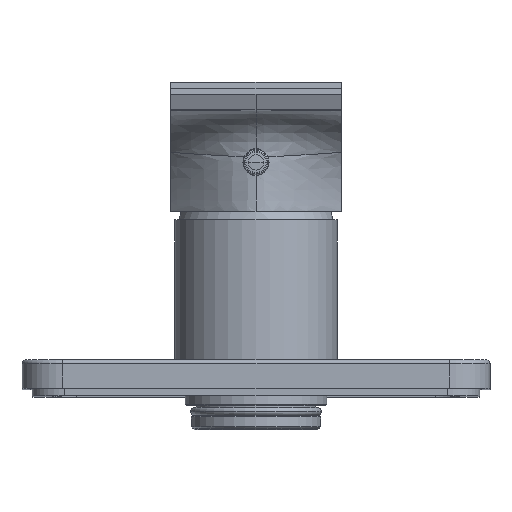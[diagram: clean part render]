
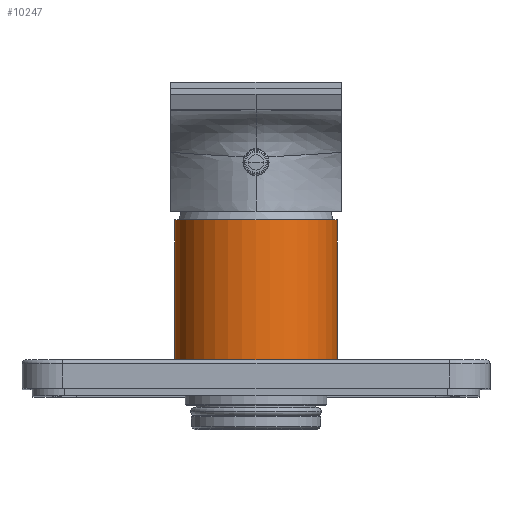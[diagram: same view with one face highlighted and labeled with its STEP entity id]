
A CAD part, top view. The second image highlights one B-rep face of the part: STEP entity #10247.
In plain terms, the highlighted cylindrical face has radius 20 mm (diameter 40 mm), a partial arc.
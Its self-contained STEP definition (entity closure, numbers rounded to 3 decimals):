
#7302=DIRECTION('',(0.,1.,0.));
#7303=VECTOR('',#7302,41.5);
#7304=CARTESIAN_POINT('',(20.,0.,0.));
#7305=LINE('',#7304,#7303);
#7306=CARTESIAN_POINT('',(0.,0.,0.));
#7307=DIRECTION('',(0.,-1.,0.));
#7308=DIRECTION('',(1.,0.,0.));
#7309=AXIS2_PLACEMENT_3D('',#7306,#7307,#7308);
#7311=DIRECTION('',(0.,1.,0.));
#7312=VECTOR('',#7311,41.5);
#7313=CARTESIAN_POINT('',(-20.,0.,0.));
#7314=LINE('',#7313,#7312);
#7320=CARTESIAN_POINT('',(0.,41.5,0.));
#7321=DIRECTION('',(0.,-1.,0.));
#7322=DIRECTION('',(1.,0.,0.));
#7323=AXIS2_PLACEMENT_3D('',#7320,#7321,#7322);
#10101=CARTESIAN_POINT('',(20.,0.,0.));
#10102=CARTESIAN_POINT('',(20.,41.5,0.));
#10103=VERTEX_POINT('',#10101);
#10104=VERTEX_POINT('',#10102);
#10105=CARTESIAN_POINT('',(-20.,0.,0.));
#10106=CARTESIAN_POINT('',(-20.,41.5,0.));
#10107=VERTEX_POINT('',#10105);
#10108=VERTEX_POINT('',#10106);
#10233=CARTESIAN_POINT('',(0.,-2.075,0.));
#10234=DIRECTION('',(0.,1.,0.));
#10235=DIRECTION('',(1.,0.,0.));
#10236=AXIS2_PLACEMENT_3D('',#10233,#10234,#10235);
#10237=CYLINDRICAL_SURFACE('',#10236,20.);
#10239=ORIENTED_EDGE('',*,*,#10238,.F.);
#10240=ORIENTED_EDGE('',*,*,#10220,.T.);
#10242=ORIENTED_EDGE('',*,*,#10241,.T.);
#10244=ORIENTED_EDGE('',*,*,#10243,.F.);
#10245=EDGE_LOOP('',(#10239,#10240,#10242,#10244));
#10246=FACE_OUTER_BOUND('',#10245,.F.);
#10247=ADVANCED_FACE('',(#10246),#10237,.T.);
#7310=CIRCLE('',#7309,20.);
#7324=CIRCLE('',#7323,20.);
#10220=EDGE_CURVE('',#10103,#10107,#7310,.T.);
#10238=EDGE_CURVE('',#10103,#10104,#7305,.T.);
#10241=EDGE_CURVE('',#10107,#10108,#7314,.T.);
#10243=EDGE_CURVE('',#10104,#10108,#7324,.T.);
